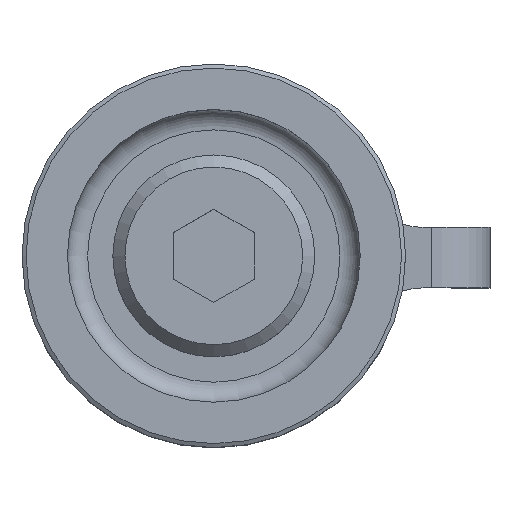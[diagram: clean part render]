
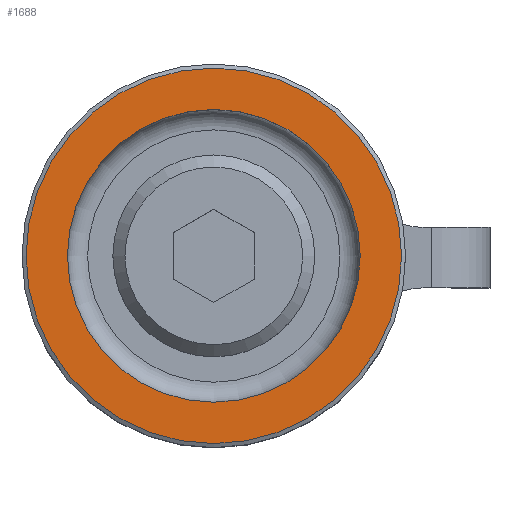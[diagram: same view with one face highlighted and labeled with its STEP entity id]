
A CAD part, top view. The second image highlights one B-rep face of the part: STEP entity #1688.
In plain terms, the highlighted planar face has unit normal (0, 0, 1) as drawn and (1, 0, 0) by its records, which use the part's own axes.
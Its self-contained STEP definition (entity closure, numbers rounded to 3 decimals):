
#302=FACE_BOUND('',#1982,.T.);
#303=FACE_BOUND('',#1983,.T.);
#1688=ADVANCED_FACE('A_MATE1',(#302,#303),#1826,.F.);
#1826=PLANE('',#3445);
#1982=EDGE_LOOP('',(#2404));
#1983=EDGE_LOOP('',(#2405));
#2203=CIRCLE('',#3443,9.3);
#2204=CIRCLE('',#3444,7.25);
#2404=ORIENTED_EDGE('',*,*,#3043,.T.);
#2405=ORIENTED_EDGE('',*,*,#3044,.F.);
#2843=VERTEX_POINT('',#4478);
#2844=VERTEX_POINT('',#4480);
#3043=EDGE_CURVE('',#2843,#2843,#2203,.T.);
#3044=EDGE_CURVE('',#2844,#2844,#2204,.T.);
#3443=AXIS2_PLACEMENT_3D('',#4477,#3821,#3822);
#3444=AXIS2_PLACEMENT_3D('',#4479,#3823,#3824);
#3445=AXIS2_PLACEMENT_3D('',#4481,#3825,#3826);
#3821=DIRECTION('',(1.,0.,0.));
#3822=DIRECTION('',(0.,0.,1.));
#3823=DIRECTION('',(1.,0.,0.));
#3824=DIRECTION('',(0.,0.,1.));
#3825=DIRECTION('',(-1.,0.,0.));
#3826=DIRECTION('',(0.,0.,1.));
#4477=CARTESIAN_POINT('',(10.,0.,0.));
#4478=CARTESIAN_POINT('',(10.,0.,9.3));
#4479=CARTESIAN_POINT('',(10.,0.,0.));
#4480=CARTESIAN_POINT('',(10.,0.,7.25));
#4481=CARTESIAN_POINT('',(10.,9.5,0.));
